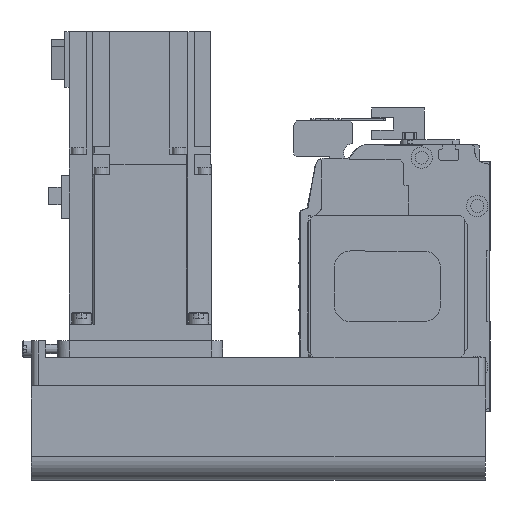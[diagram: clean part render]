
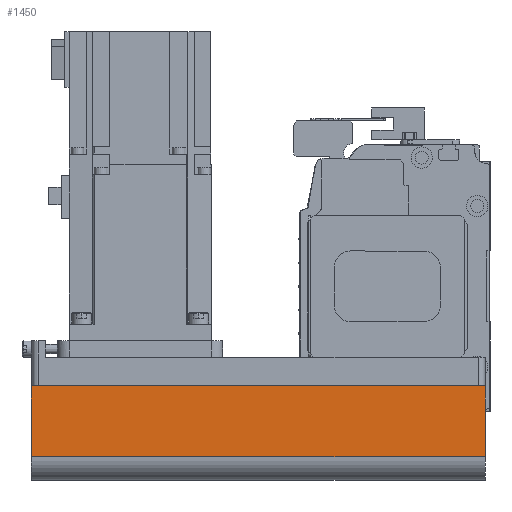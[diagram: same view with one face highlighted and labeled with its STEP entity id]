
A CAD part, left-side view. The second image highlights one B-rep face of the part: STEP entity #1450.
In plain terms, the highlighted planar face has unit normal (-1, 0, 0) as drawn and (0, -1, 0) by its records, which use the part's own axes.
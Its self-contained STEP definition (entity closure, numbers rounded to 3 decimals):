
#1450 = ADVANCED_FACE( '', ( #3366 ), #3367, .T. );
#3366 = FACE_OUTER_BOUND( '', #5830, .T. );
#3367 = PLANE( '', #5831 );
#5830 = EDGE_LOOP( '', ( #9752, #9753, #9754, #9755 ) );
#5831 = AXIS2_PLACEMENT_3D( '', #9756, #9757, #9758 );
#9752 = ORIENTED_EDGE( '', *, *, #15199, .F. );
#9753 = ORIENTED_EDGE( '', *, *, #15200, .F. );
#9754 = ORIENTED_EDGE( '', *, *, #15116, .T. );
#9755 = ORIENTED_EDGE( '', *, *, #14900, .T. );
#9756 = CARTESIAN_POINT( '', ( -192., -40., -12.1 ) );
#9757 = DIRECTION( '', ( 0., -1., 0. ) );
#9758 = DIRECTION( '', ( 0., 0., -1. ) );
#14900 = EDGE_CURVE( '', #18139, #18136, #18140, .T. );
#15116 = EDGE_CURVE( '', #17771, #18139, #18468, .T. );
#15199 = EDGE_CURVE( '', #18599, #18136, #18600, .T. );
#15200 = EDGE_CURVE( '', #17771, #18599, #18601, .T. );
#17771 = VERTEX_POINT( '', #21917 );
#18136 = VERTEX_POINT( '', #22414 );
#18139 = VERTEX_POINT( '', #22417 );
#18140 = LINE( '', #22418, #22419 );
#18468 = LINE( '', #22846, #22847 );
#18599 = VERTEX_POINT( '', #23024 );
#18600 = LINE( '', #23025, #23026 );
#18601 = LINE( '', #23027, #23028 );
#21917 = CARTESIAN_POINT( '', ( -192., -40., -12.1 ) );
#22414 = CARTESIAN_POINT( '', ( 0., -40., -42. ) );
#22417 = CARTESIAN_POINT( '', ( -192., -40., -42. ) );
#22418 = CARTESIAN_POINT( '', ( -192., -40., -42. ) );
#22419 = VECTOR( '', #26416, 1000. );
#22846 = CARTESIAN_POINT( '', ( -192., -40., -12.1 ) );
#22847 = VECTOR( '', #26696, 1000. );
#23024 = CARTESIAN_POINT( '', ( 0., -40., -12.1 ) );
#23025 = CARTESIAN_POINT( '', ( 0., -40., -12.1 ) );
#23026 = VECTOR( '', #26809, 1000. );
#23027 = CARTESIAN_POINT( '', ( -192., -40., -12.1 ) );
#23028 = VECTOR( '', #26810, 1000. );
#26416 = DIRECTION( '', ( 1., 0., 0. ) );
#26696 = DIRECTION( '', ( 0., 0., -1. ) );
#26809 = DIRECTION( '', ( 0., 0., -1. ) );
#26810 = DIRECTION( '', ( 1., 0., 0. ) );
